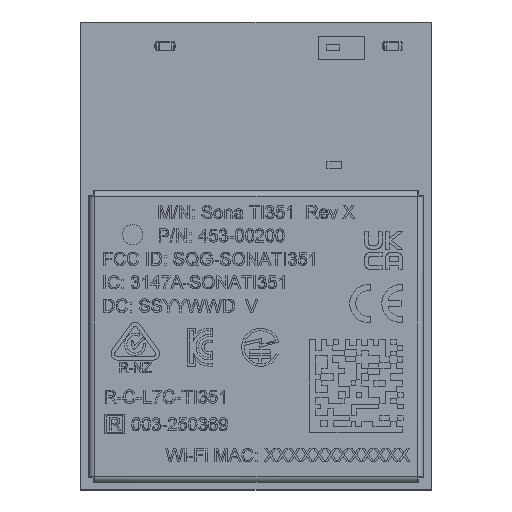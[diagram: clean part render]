
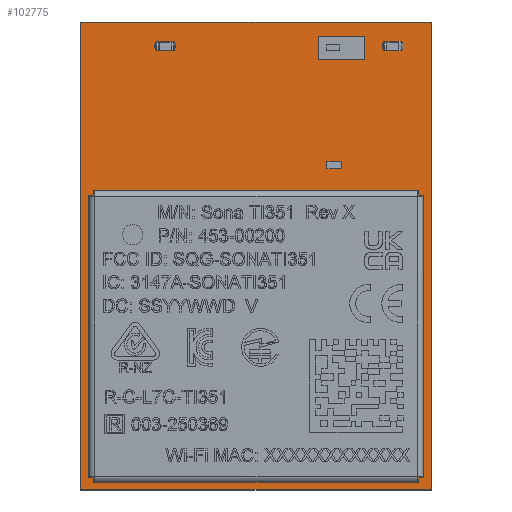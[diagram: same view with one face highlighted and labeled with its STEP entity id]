
A CAD part, top view. The second image highlights one B-rep face of the part: STEP entity #102775.
In plain terms, the highlighted planar face has unit normal (0, 0, 1).
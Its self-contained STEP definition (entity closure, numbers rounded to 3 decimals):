
#2844 = EDGE_CURVE ( 'NONE', #91087, #120875, #136179, .T. ) ;
#8823 = CARTESIAN_POINT ( 'NONE',  ( -6., -8., 0. ) ) ;
#10362 = DIRECTION ( 'NONE',  ( 1., 0., 0. ) ) ;
#12467 = LINE ( 'NONE', #60430, #49434 ) ;
#14814 = LINE ( 'NONE', #142183, #191668 ) ;
#27323 = AXIS2_PLACEMENT_3D ( 'NONE', #44805, #153313, #10362 ) ;
#32749 = VECTOR ( 'NONE', #187849, 1000. ) ;
#44805 = CARTESIAN_POINT ( 'NONE',  ( 0., 0., 0. ) ) ;
#49434 = VECTOR ( 'NONE', #90780, 1000. ) ;
#52944 = ORIENTED_EDGE ( 'NONE', *, *, #106490, .T. ) ;
#60430 = CARTESIAN_POINT ( 'NONE',  ( -6., -8., 0. ) ) ;
#61760 = DIRECTION ( 'NONE',  ( 0., -1., 0. ) ) ;
#77262 = CARTESIAN_POINT ( 'NONE',  ( 6., -8., 0. ) ) ;
#83521 = ORIENTED_EDGE ( 'NONE', *, *, #194980, .T. ) ;
#84871 = ORIENTED_EDGE ( 'NONE', *, *, #185685, .T. ) ;
#90780 = DIRECTION ( 'NONE',  ( 1., 0., 0. ) ) ;
#91087 = VERTEX_POINT ( 'NONE', #142442 ) ;
#102775 = ADVANCED_FACE ( 'NONE', ( #169937 ), #189721, .T. ) ;
#106490 = EDGE_CURVE ( 'NONE', #183419, #149963, #12467, .T. ) ;
#119366 = ORIENTED_EDGE ( 'NONE', *, *, #2844, .T. ) ;
#120875 = VERTEX_POINT ( 'NONE', #180766 ) ;
#122930 = VECTOR ( 'NONE', #184110, 1000. ) ;
#136179 = LINE ( 'NONE', #185150, #122930 ) ;
#142183 = CARTESIAN_POINT ( 'NONE',  ( -6., 8., 0. ) ) ;
#142442 = CARTESIAN_POINT ( 'NONE',  ( 6., 8., 0. ) ) ;
#149963 = VERTEX_POINT ( 'NONE', #185618 ) ;
#153313 = DIRECTION ( 'NONE',  ( 0., 0., 1. ) ) ;
#158633 = LINE ( 'NONE', #77262, #32749 ) ;
#169937 = FACE_OUTER_BOUND ( 'NONE', #180552, .T. ) ;
#180552 = EDGE_LOOP ( 'NONE', ( #52944, #84871, #119366, #83521 ) ) ;
#180766 = CARTESIAN_POINT ( 'NONE',  ( -6., 8., 0. ) ) ;
#183419 = VERTEX_POINT ( 'NONE', #8823 ) ;
#184110 = DIRECTION ( 'NONE',  ( -1., 0., 0. ) ) ;
#185150 = CARTESIAN_POINT ( 'NONE',  ( 6., 8., 0. ) ) ;
#185618 = CARTESIAN_POINT ( 'NONE',  ( 6., -8., 0. ) ) ;
#185685 = EDGE_CURVE ( 'NONE', #149963, #91087, #158633, .T. ) ;
#187849 = DIRECTION ( 'NONE',  ( 0., 1., 0. ) ) ;
#189721 = PLANE ( 'NONE',  #27323 ) ;
#191668 = VECTOR ( 'NONE', #61760, 1000. ) ;
#194980 = EDGE_CURVE ( 'NONE', #120875, #183419, #14814, .T. ) ;
